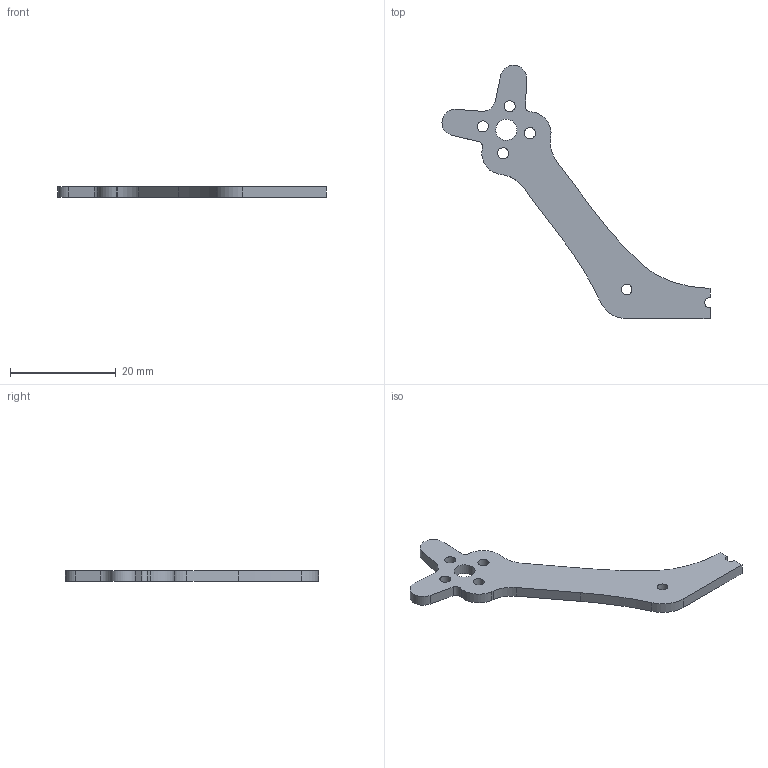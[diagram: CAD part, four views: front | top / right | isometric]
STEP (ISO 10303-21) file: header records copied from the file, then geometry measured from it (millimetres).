
FILE_DESCRIPTION(/* description */ (''),/* implementation_level */ '2;1');
FILE_NAME(/* name */ 'GoFlyPro - 2.5-Zoll - Arm - 9mm.step',/* time_stamp */ '2026-07-04T12:17:30+02:00',/* author */ (''),/* organization */ (''),/* preprocessor_version */ 'ST-DEVELOPER v20.1',/* originating_system */ 'Autodesk Translation Framework v15.8.0.0',/* authorisation */ '');
FILE_SCHEMA (('AUTOMOTIVE_DESIGN { 1 0 10303 214 3 1 1 }'));
Length unit declared in the file: millimetre
Products named in the file (1): GoFlyPro - 2.5-Zoll - Arm - 9mm
Bounding box: 50.66 x 47.85 x 2 mm (x, y, z)
Volume: 1125.1 mm3; surface area: 1534.4 mm2
Topology: 1 solids, 1 shells, 36 faces, 102 edges, 68 vertices
Faces by surface type: cylinder 18, plane 15, bspline 3
Full cylindrical faces by diameter (mm): 2 x1, 2.1 x4, 4 x1
Entity records: 1255 total; most frequent: CARTESIAN_POINT 222, DIRECTION 212, ORIENTED_EDGE 204, EDGE_CURVE 102, AXIS2_PLACEMENT_3D 76, VERTEX_POINT 68, LINE 60, VECTOR 60
